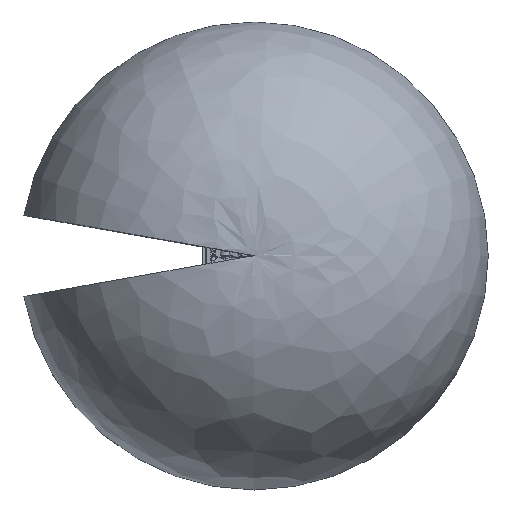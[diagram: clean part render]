
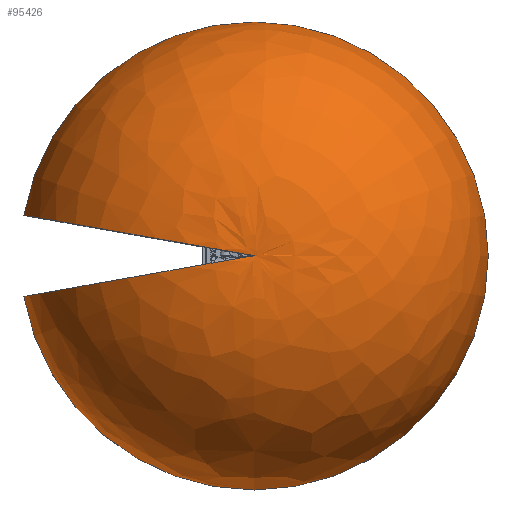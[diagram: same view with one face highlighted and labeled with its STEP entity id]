
A CAD part, top view. The second image highlights one B-rep face of the part: STEP entity #95426.
In plain terms, the highlighted free-form (B-spline) face has degree [2, 2] with [5, 9] control points.
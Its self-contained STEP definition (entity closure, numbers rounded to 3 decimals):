
#491=(
BOUNDED_SURFACE()
B_SPLINE_SURFACE(2,2,((#235478,#235479,#235480,#235481,#235482,#235483,
#235484,#235485,#235486),(#235487,#235488,#235489,#235490,#235491,#235492,
#235493,#235494,#235495),(#235496,#235497,#235498,#235499,#235500,#235501,
#235502,#235503,#235504),(#235505,#235506,#235507,#235508,#235509,#235510,
#235511,#235512,#235513),(#235514,#235515,#235516,#235517,#235518,#235519,
#235520,#235521,#235522)),.UNSPECIFIED.,.F.,.F.,.F.)
B_SPLINE_SURFACE_WITH_KNOTS((3,2,3),(3,2,2,2,3),(0.087,0.892,
1.697),(-2.967,-1.484,0.,
1.484,2.967),.UNSPECIFIED.)
GEOMETRIC_REPRESENTATION_ITEM()
RATIONAL_B_SPLINE_SURFACE(((1.,0.737,1.,0.737,1.,
0.737,1.,0.737,1.),(0.92,0.678,
0.92,0.678,0.92,0.678,
0.92,0.678,0.92),(1.,0.737,
1.,0.737,1.,0.737,1.,0.737,1.),(0.92,
0.678,0.92,0.678,0.92,0.678,
0.92,0.678,0.92),(1.,0.737,
1.,0.737,1.,0.737,1.,0.737,1.)))
REPRESENTATION_ITEM('')
SURFACE()
);
#29429=FACE_OUTER_BOUND('',#35910,.T.);
#35910=EDGE_LOOP('',(#88165,#88166,#88167));
#38898=CIRCLE('',#104362,2842.643);
#38905=CIRCLE('',#104369,2532.384);
#38906=CIRCLE('',#104370,2532.384);
#47933=VERTEX_POINT('',#235393);
#47934=VERTEX_POINT('',#235395);
#47938=VERTEX_POINT('',#235523);
#61342=EDGE_CURVE('',#47934,#47933,#38898,.T.);
#61349=EDGE_CURVE('',#47938,#47933,#38905,.T.);
#61350=EDGE_CURVE('',#47938,#47934,#38906,.T.);
#88165=ORIENTED_EDGE('',*,*,#61342,.T.);
#88166=ORIENTED_EDGE('',*,*,#61349,.F.);
#88167=ORIENTED_EDGE('',*,*,#61350,.T.);
#95426=ADVANCED_FACE('',(#29429),#491,.F.);
#104362=AXIS2_PLACEMENT_3D('',#235396,#129638,#129639);
#104369=AXIS2_PLACEMENT_3D('',#235524,#129652,#129653);
#104370=AXIS2_PLACEMENT_3D('',#235525,#129654,#129655);
#129638=DIRECTION('center_axis',(0.,0.,1.));
#129639=DIRECTION('ref_axis',(1.,0.,0.));
#129652=DIRECTION('center_axis',(-0.174,-0.985,
0.));
#129653=DIRECTION('ref_axis',(0.,0.,-1.));
#129654=DIRECTION('center_axis',(0.174,-0.985,0.));
#129655=DIRECTION('ref_axis',(0.,0.,-1.));
#235393=CARTESIAN_POINT('',(-2799.457,493.62,1000.768));
#235395=CARTESIAN_POINT('',(-2799.457,-493.62,1000.768));
#235396=CARTESIAN_POINT('Origin',(0.,0.,1000.768));
#235478=CARTESIAN_POINT('Ctrl Pts',(-2799.457,-493.62,
1000.768));
#235479=CARTESIAN_POINT('Ctrl Pts',(-2347.138,-3058.849,
1000.768));
#235480=CARTESIAN_POINT('Ctrl Pts',(247.753,-2831.826,
1000.768));
#235481=CARTESIAN_POINT('Ctrl Pts',(2842.643,-2604.802,1000.768));
#235482=CARTESIAN_POINT('Ctrl Pts',(2842.643,0.,1000.768));
#235483=CARTESIAN_POINT('Ctrl Pts',(2842.643,2604.802,1000.768));
#235484=CARTESIAN_POINT('Ctrl Pts',(247.753,2831.826,1000.768));
#235485=CARTESIAN_POINT('Ctrl Pts',(-2347.138,3058.849,
1000.768));
#235486=CARTESIAN_POINT('Ctrl Pts',(-2799.457,493.62,
1000.768));
#235487=CARTESIAN_POINT('Ctrl Pts',(-2706.883,-477.297,
2074.935));
#235488=CARTESIAN_POINT('Ctrl Pts',(-2269.521,-2957.698,
2074.935));
#235489=CARTESIAN_POINT('Ctrl Pts',(239.56,-2738.182,
2074.935));
#235490=CARTESIAN_POINT('Ctrl Pts',(2748.641,-2518.666,
2074.935));
#235491=CARTESIAN_POINT('Ctrl Pts',(2748.641,0.,2074.935));
#235492=CARTESIAN_POINT('Ctrl Pts',(2748.641,2518.666,2074.935));
#235493=CARTESIAN_POINT('Ctrl Pts',(239.56,2738.182,2074.935));
#235494=CARTESIAN_POINT('Ctrl Pts',(-2269.521,2957.698,
2074.935));
#235495=CARTESIAN_POINT('Ctrl Pts',(-2706.883,477.297,
2074.935));
#235496=CARTESIAN_POINT('Ctrl Pts',(-1880.134,-331.518,
2751.622));
#235497=CARTESIAN_POINT('Ctrl Pts',(-1576.353,-2054.343,
2751.622));
#235498=CARTESIAN_POINT('Ctrl Pts',(166.392,-1901.873,
2751.622));
#235499=CARTESIAN_POINT('Ctrl Pts',(1909.138,-1749.402,
2751.622));
#235500=CARTESIAN_POINT('Ctrl Pts',(1909.138,0.,2751.622));
#235501=CARTESIAN_POINT('Ctrl Pts',(1909.138,1749.402,2751.622));
#235502=CARTESIAN_POINT('Ctrl Pts',(166.392,1901.873,2751.622));
#235503=CARTESIAN_POINT('Ctrl Pts',(-1576.353,2054.343,
2751.622));
#235504=CARTESIAN_POINT('Ctrl Pts',(-1880.134,331.518,2751.622));
#235505=CARTESIAN_POINT('Ctrl Pts',(-1053.384,-185.74,
3428.309));
#235506=CARTESIAN_POINT('Ctrl Pts',(-883.185,-1150.989,
3428.309));
#235507=CARTESIAN_POINT('Ctrl Pts',(93.225,-1065.564,3428.309));
#235508=CARTESIAN_POINT('Ctrl Pts',(1069.634,-980.139,
3428.309));
#235509=CARTESIAN_POINT('Ctrl Pts',(1069.634,0.,3428.309));
#235510=CARTESIAN_POINT('Ctrl Pts',(1069.634,980.139,3428.309));
#235511=CARTESIAN_POINT('Ctrl Pts',(93.225,1065.564,3428.309));
#235512=CARTESIAN_POINT('Ctrl Pts',(-883.185,1150.989,
3428.309));
#235513=CARTESIAN_POINT('Ctrl Pts',(-1053.384,185.74,3428.309));
#235514=CARTESIAN_POINT('Ctrl Pts',(0.,0.,
3292.098));
#235515=CARTESIAN_POINT('Ctrl Pts',(0.,0.,
3292.098));
#235516=CARTESIAN_POINT('Ctrl Pts',(0.,0.,
3292.098));
#235517=CARTESIAN_POINT('Ctrl Pts',(0.,0.,
3292.098));
#235518=CARTESIAN_POINT('Ctrl Pts',(0.,0.,3292.098));
#235519=CARTESIAN_POINT('Ctrl Pts',(0.,0.,
3292.098));
#235520=CARTESIAN_POINT('Ctrl Pts',(0.,0.,
3292.098));
#235521=CARTESIAN_POINT('Ctrl Pts',(0.,0.,
3292.098));
#235522=CARTESIAN_POINT('Ctrl Pts',(0.,0.,
3292.098));
#235523=CARTESIAN_POINT('',(0.,0.,3292.098));
#235524=CARTESIAN_POINT('Origin',(-315.04,55.55,780.));
#235525=CARTESIAN_POINT('Origin',(-315.04,-55.55,780.));
